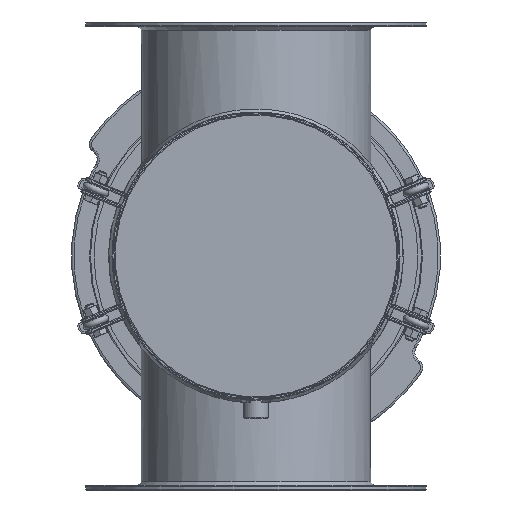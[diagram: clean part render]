
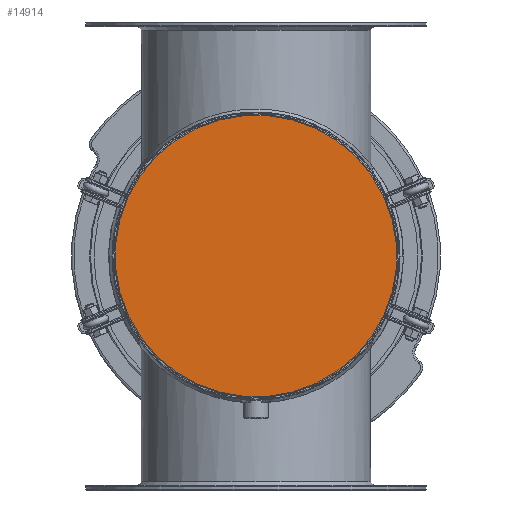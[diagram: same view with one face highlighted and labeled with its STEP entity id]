
A CAD part, front view. The second image highlights one B-rep face of the part: STEP entity #14914.
In plain terms, the highlighted planar face has unit normal (0, -1, 0).
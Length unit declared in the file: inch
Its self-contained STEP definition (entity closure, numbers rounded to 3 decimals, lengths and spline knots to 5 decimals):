
#1452=CIRCLE('',#16006,7.825);
#3084=FACE_OUTER_BOUND('',#4104,.T.);
#4104=EDGE_LOOP('',(#10755));
#7050=VERTEX_POINT('',#26763);
#8414=EDGE_CURVE('',#7050,#7050,#1452,.T.);
#10755=ORIENTED_EDGE('',*,*,#8414,.F.);
#14565=PLANE('',#16009);
#14914=ADVANCED_FACE('',(#3084),#14565,.F.);
#16006=AXIS2_PLACEMENT_3D('',#26764,#18438,#18439);
#16009=AXIS2_PLACEMENT_3D('',#26768,#18444,#18445);
#18438=DIRECTION('center_axis',(0.,1.,0.));
#18439=DIRECTION('ref_axis',(1.,0.,0.));
#18444=DIRECTION('center_axis',(0.,1.,0.));
#18445=DIRECTION('ref_axis',(0.,0.,1.));
#26763=CARTESIAN_POINT('',(-7.825,0.,0.));
#26764=CARTESIAN_POINT('Origin',(0.,0.,0.));
#26768=CARTESIAN_POINT('Origin',(0.,0.,0.));
